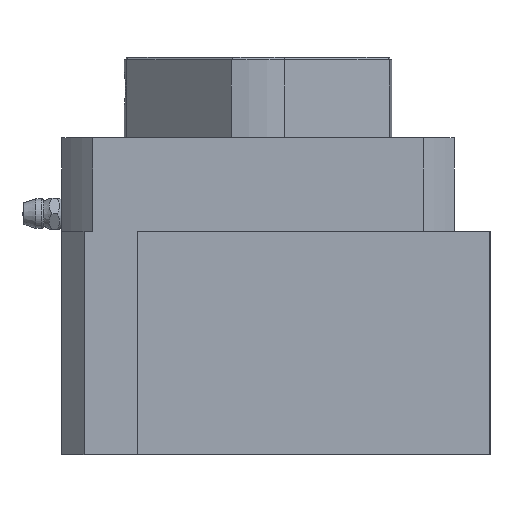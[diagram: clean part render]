
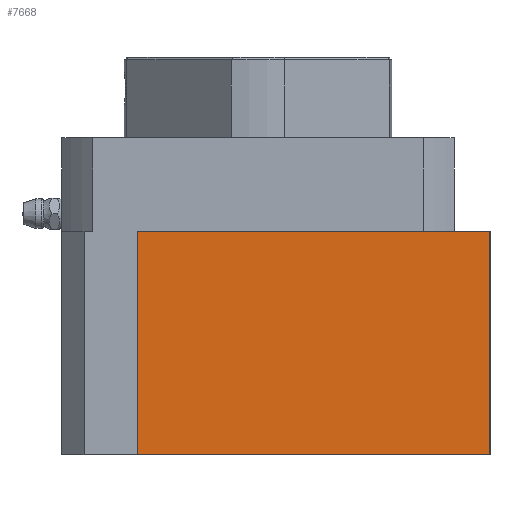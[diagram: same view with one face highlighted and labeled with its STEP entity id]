
A CAD part, left-side view. The second image highlights one B-rep face of the part: STEP entity #7668.
In plain terms, the highlighted planar face has unit normal (-1, 0, 0).
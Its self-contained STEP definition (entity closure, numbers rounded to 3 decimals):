
#209 = CARTESIAN_POINT ( 'NONE',  ( -70., 27., 50. ) ) ;
#340 = VECTOR ( 'NONE', #12048, 1000. ) ;
#896 = EDGE_CURVE ( 'NONE', #11777, #8827, #4389, .T. ) ;
#930 = CARTESIAN_POINT ( 'NONE',  ( -70., -52., 50. ) ) ;
#1120 = EDGE_CURVE ( 'NONE', #8153, #8827, #9922, .T. ) ;
#1949 = CARTESIAN_POINT ( 'NONE',  ( -70., -52., 50. ) ) ;
#2493 = EDGE_CURVE ( 'NONE', #6461, #11777, #9722, .T. ) ;
#3480 = EDGE_LOOP ( 'NONE', ( #11612, #11741, #5228, #10352 ) ) ;
#3537 = CARTESIAN_POINT ( 'NONE',  ( -70., 27., 0. ) ) ;
#3607 = DIRECTION ( 'NONE',  ( 0., -1., 0. ) ) ;
#3653 = CARTESIAN_POINT ( 'NONE',  ( -70., 27., 50. ) ) ;
#4186 = CARTESIAN_POINT ( 'NONE',  ( -70., 27., 0. ) ) ;
#4389 = LINE ( 'NONE', #930, #5066 ) ;
#5066 = VECTOR ( 'NONE', #12262, 1000. ) ;
#5228 = ORIENTED_EDGE ( 'NONE', *, *, #2493, .F. ) ;
#5692 = PLANE ( 'NONE',  #10052 ) ;
#6461 = VERTEX_POINT ( 'NONE', #209 ) ;
#6739 = DIRECTION ( 'NONE',  ( 0., 0., -1. ) ) ;
#6977 = VECTOR ( 'NONE', #3607, 1000. ) ;
#7176 = VECTOR ( 'NONE', #11588, 1000. ) ;
#7668 = ADVANCED_FACE ( 'NONE', ( #8367 ), #5692, .F. ) ;
#8153 = VERTEX_POINT ( 'NONE', #4186 ) ;
#8367 = FACE_OUTER_BOUND ( 'NONE', #3480, .T. ) ;
#8668 = EDGE_CURVE ( 'NONE', #6461, #8153, #10750, .T. ) ;
#8827 = VERTEX_POINT ( 'NONE', #8990 ) ;
#8990 = CARTESIAN_POINT ( 'NONE',  ( -70., -52., 0. ) ) ;
#9722 = LINE ( 'NONE', #3653, #6977 ) ;
#9922 = LINE ( 'NONE', #3537, #7176 ) ;
#10052 = AXIS2_PLACEMENT_3D ( 'NONE', #12903, #11956, #6739 ) ;
#10352 = ORIENTED_EDGE ( 'NONE', *, *, #8668, .T. ) ;
#10750 = LINE ( 'NONE', #13176, #340 ) ;
#11588 = DIRECTION ( 'NONE',  ( 0., -1., 0. ) ) ;
#11612 = ORIENTED_EDGE ( 'NONE', *, *, #1120, .T. ) ;
#11741 = ORIENTED_EDGE ( 'NONE', *, *, #896, .F. ) ;
#11777 = VERTEX_POINT ( 'NONE', #1949 ) ;
#11956 = DIRECTION ( 'NONE',  ( 1., 0., 0. ) ) ;
#12048 = DIRECTION ( 'NONE',  ( 0., 0., -1. ) ) ;
#12262 = DIRECTION ( 'NONE',  ( 0., 0., -1. ) ) ;
#12903 = CARTESIAN_POINT ( 'NONE',  ( -70., 27., 50. ) ) ;
#13176 = CARTESIAN_POINT ( 'NONE',  ( -70., 27., 50. ) ) ;
